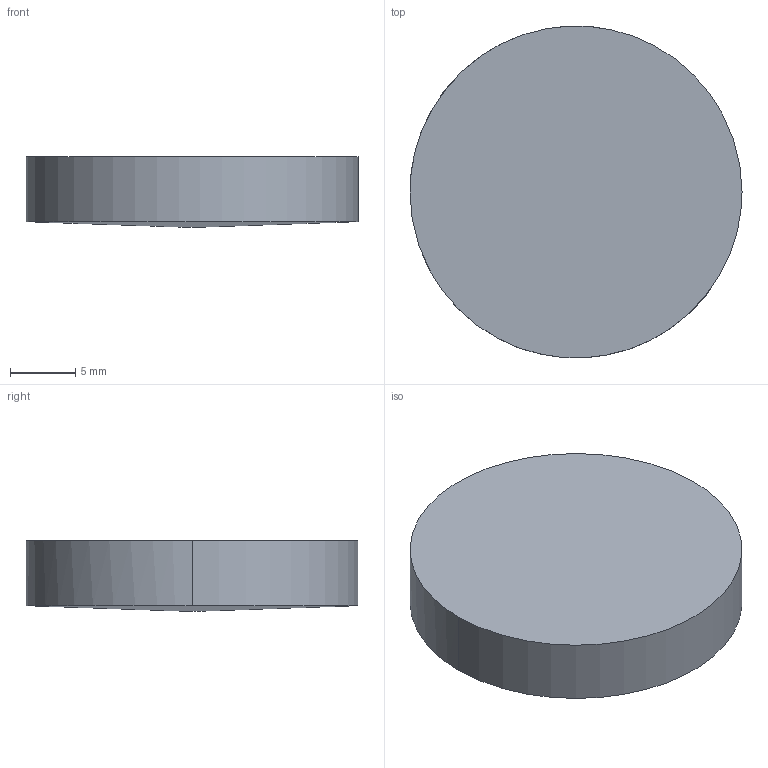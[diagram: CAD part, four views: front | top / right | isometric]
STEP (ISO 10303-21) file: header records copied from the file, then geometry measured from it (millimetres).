
FILE_DESCRIPTION ((), '1');
FILE_NAME ('\\fileserver\Daten\Applikationen\Optikdesign\SPA-Design\aktuelle SPA-Designs\Linsenkataloge - 2016-Juni\Zemax\XFL\XFL25-020.STP', '2016-05-24T14:28:47', ('Unknown'), ('Unknown'), 'HarmonyWare STEP v2.0.1', 'HarmonyWare Translators', '');
FILE_SCHEMA (('CONFIG_CONTROL_DESIGN'));
Length unit declared in the file: millimetre
Products named in the file (1): NONE
Bounding box: 25.4 x 25.38 x 5.43 mm (x, y, z)
Volume: 2603 mm3; surface area: 1412.5 mm2
Topology: 1 solids, 1 shells, 4 faces, 9 edges, 6 vertices
Faces by surface type: cylinder 2, bspline 1, plane 1
Entity records: 265 total; most frequent: CARTESIAN_POINT 114, ORIENTED_EDGE 16, EDGE_CURVE 8, PERSON 8, ORGANIZATION 8, PERSON_AND_ORGANIZATION 8, VERTEX_POINT 6, DIRECTION 6
